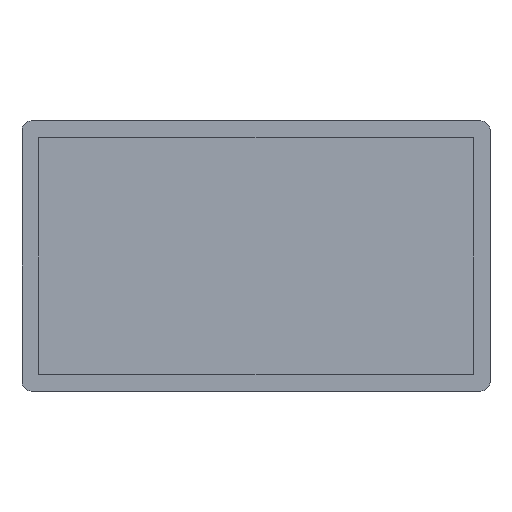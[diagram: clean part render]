
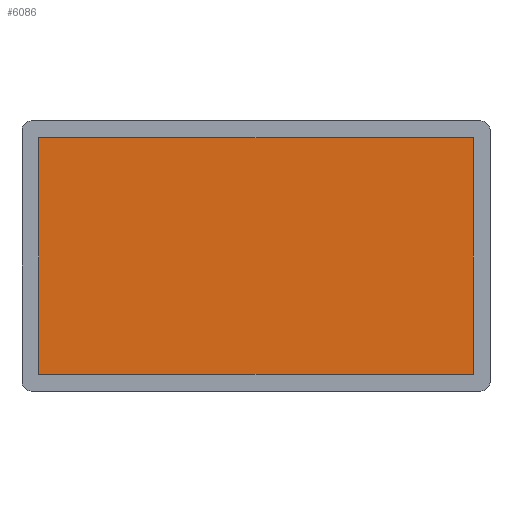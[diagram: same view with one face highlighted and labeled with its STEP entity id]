
A CAD part, top view. The second image highlights one B-rep face of the part: STEP entity #6086.
In plain terms, the highlighted planar face has unit normal (0, 0, 1).
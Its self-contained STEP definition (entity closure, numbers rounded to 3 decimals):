
#5146=DIRECTION('',(0.,-1.,0.));
#5147=VECTOR('',#5146,261.28);
#5148=CARTESIAN_POINT('',(-239.83,130.64,10.65));
#5149=LINE('',#5148,#5147);
#5153=DIRECTION('',(-1.,0.,0.));
#5154=VECTOR('',#5153,479.66);
#5155=CARTESIAN_POINT('',(239.83,130.64,10.65));
#5156=LINE('',#5155,#5154);
#5160=DIRECTION('',(0.,1.,0.));
#5161=VECTOR('',#5160,261.28);
#5162=CARTESIAN_POINT('',(239.83,-130.64,10.65));
#5163=LINE('',#5162,#5161);
#5167=DIRECTION('',(1.,0.,0.));
#5168=VECTOR('',#5167,479.66);
#5169=CARTESIAN_POINT('',(-239.83,-130.64,10.65));
#5170=LINE('',#5169,#5168);
#5543=CARTESIAN_POINT('',(-239.83,130.64,10.65));
#5544=CARTESIAN_POINT('',(-239.83,-130.64,10.65));
#5545=VERTEX_POINT('',#5543);
#5546=VERTEX_POINT('',#5544);
#5547=CARTESIAN_POINT('',(239.83,-130.64,10.65));
#5548=VERTEX_POINT('',#5547);
#5549=CARTESIAN_POINT('',(239.83,130.64,10.65));
#5550=VERTEX_POINT('',#5549);
#6075=CARTESIAN_POINT('',(0.,0.,10.65));
#6076=DIRECTION('',(0.,0.,1.));
#6077=DIRECTION('',(1.,0.,0.));
#6078=AXIS2_PLACEMENT_3D('',#6075,#6076,#6077);
#6079=PLANE('',#6078);
#6080=ORIENTED_EDGE('',*,*,#6027,.F.);
#6081=ORIENTED_EDGE('',*,*,#6042,.F.);
#6082=ORIENTED_EDGE('',*,*,#6056,.F.);
#6083=ORIENTED_EDGE('',*,*,#6069,.F.);
#6084=EDGE_LOOP('',(#6080,#6081,#6082,#6083));
#6085=FACE_OUTER_BOUND('',#6084,.F.);
#6086=ADVANCED_FACE('',(#6085),#6079,.T.);
#6027=EDGE_CURVE('',#5545,#5546,#5149,.T.);
#6042=EDGE_CURVE('',#5550,#5545,#5156,.T.);
#6056=EDGE_CURVE('',#5548,#5550,#5163,.T.);
#6069=EDGE_CURVE('',#5546,#5548,#5170,.T.);
